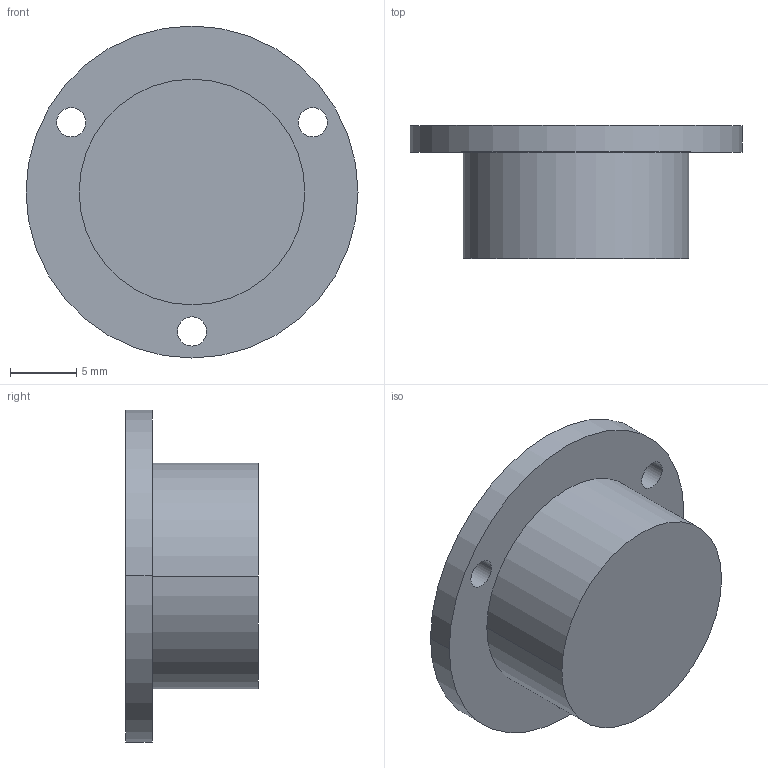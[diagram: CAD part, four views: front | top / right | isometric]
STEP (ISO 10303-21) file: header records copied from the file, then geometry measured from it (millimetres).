
FILE_DESCRIPTION (( 'STEP AP214' ), '1' );
FILE_NAME ('2277-ALN-25-K-30-B.step', '2020-03-26T09:48:24', ( '' ), ( '' ), 'SwSTEP 2.0', 'SolidWorks 2019', '' );
FILE_SCHEMA (( 'AUTOMOTIVE_DESIGN' ));
Length unit declared in the file: millimetre
Products named in the file (1): 2277-ALN-25-K-30-B
Bounding box: 25 x 10 x 25 mm (x, y, z)
Volume: 2619.1 mm3; surface area: 1648.6 mm2
Topology: 1 solids, 1 shells, 28 faces, 60 edges, 38 vertices
Faces by surface type: cylinder 18, plane 6, torus 2, cone 2
Entity records: 855 total; most frequent: DIRECTION 158, CARTESIAN_POINT 127, ORIENTED_EDGE 120, AXIS2_PLACEMENT_3D 69, EDGE_CURVE 60, CIRCLE 40, VERTEX_POINT 38, EDGE_LOOP 38
